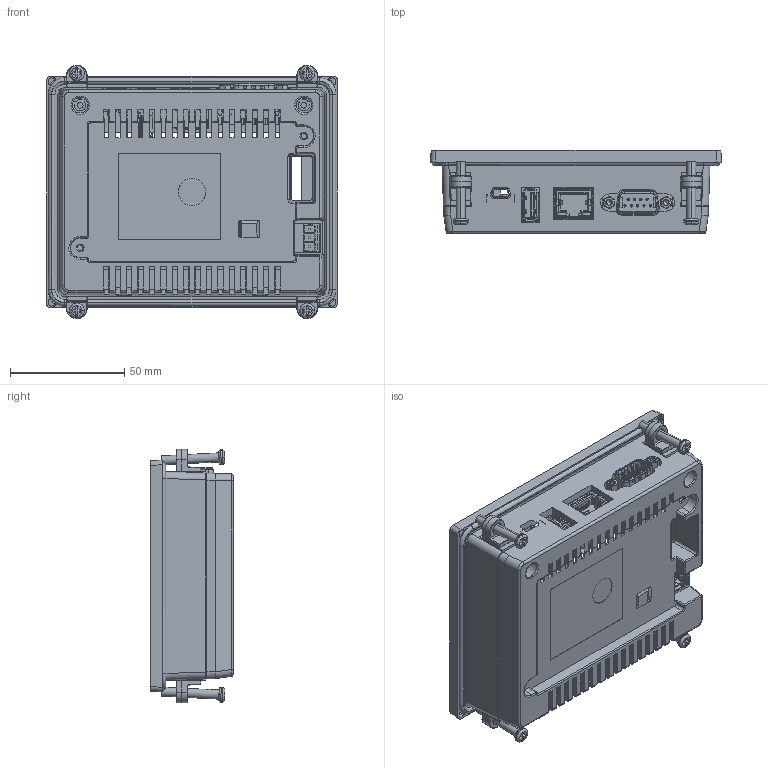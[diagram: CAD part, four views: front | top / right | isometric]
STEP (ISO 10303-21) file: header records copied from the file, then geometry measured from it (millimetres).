
FILE_DESCRIPTION(/* description */ (''),/* implementation_level */ '2;1');
FILE_NAME(/* name */ 'P5043',/* time_stamp */ '2021-06-10T15:30:03+08:00',/* author */ (''),/* organization */ (''),/* preprocessor_version */ 'ST-DEVELOPER v16.5',/* originating_system */ '',/* authorisation */ '');
FILE_SCHEMA (('CONFIG_CONTROL_DESIGN'));
Products named in the file (1): Document
Bounding box: 127.5 x 36.4 x 111 mm (x, y, z)
Surface area: 78233.9 mm2 (no closed solid volume)
Topology: 0 solids, 3966 shells, 3966 faces, 24307 edges, 27360 vertices
Faces by surface type: plane 2263, cylinder 1154, bspline 549
Entity records: 221347 total; most frequent: CARTESIAN_POINT 108514, ORIENTED_EDGE 21062, EDGE_CURVE 21062, VERTEX_POINT 21062, B_SPLINE_CURVE_WITH_KNOTS 19049, EDGE_LOOP 4141, SHELL_BASED_SURFACE_MODEL 3966, OPEN_SHELL 3966
